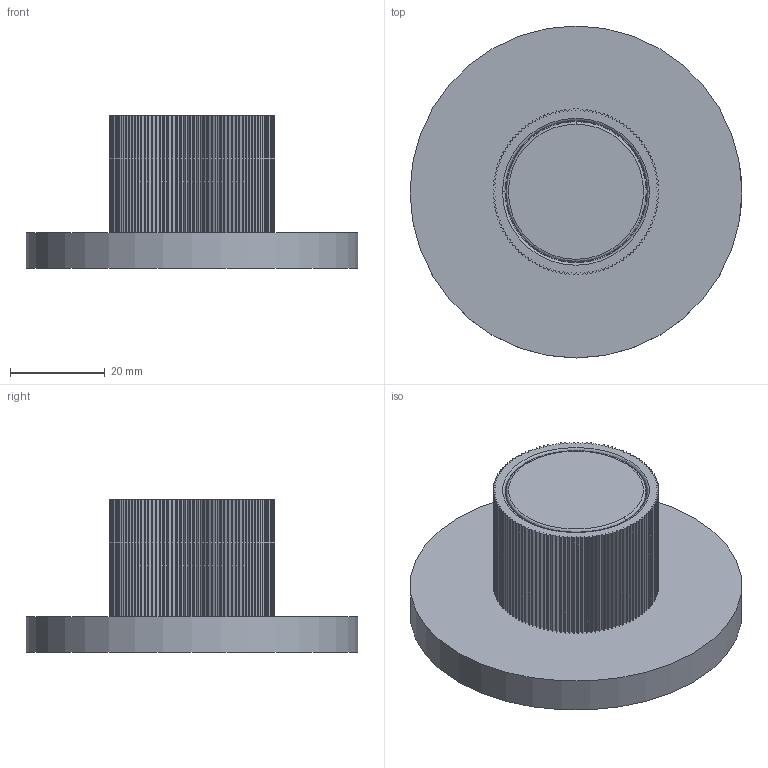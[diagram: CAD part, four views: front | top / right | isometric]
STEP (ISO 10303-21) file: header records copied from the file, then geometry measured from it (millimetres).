
FILE_DESCRIPTION(('STEP AP214'),'2;1');
FILE_NAME('DIS_3D_H790B+H590A.stp','2025-03-10T12:50:33',(''),(''),'2015.2.119','THINKDESIGN','');
FILE_SCHEMA(('AUTOMOTIVE_DESIGN'));
Length unit declared in the file: millimetre
Products named in the file (1): top
Bounding box: 70 x 70 x 32.1 mm (x, y, z)
Volume: 41939.2 mm3; surface area: 21113.3 mm2
Topology: 3 solids, 3 shells, 438 faces, 1260 edges, 829 vertices
Faces by surface type: plane 262, cylinder 150, bspline 26
Full cylindrical faces by diameter (mm): 70 x1
Entity records: 23805 total; most frequent: CARTESIAN_POINT 4742, ORIENTED_EDGE 2508, DIRECTION 2138, EDGE_CURVE 1254, STYLED_ITEM 879, PRESENTATION_STYLE_ASSIGNMENT 877, SURFACE_STYLE_USAGE 877, SURFACE_SIDE_STYLE 877
